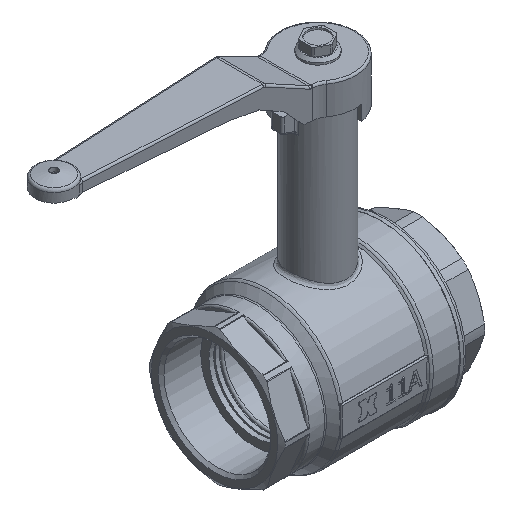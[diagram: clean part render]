
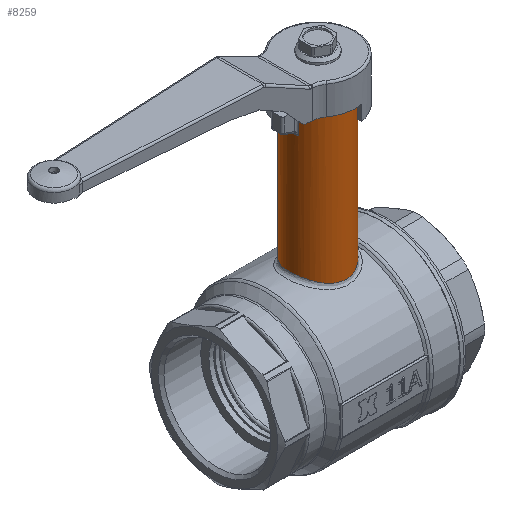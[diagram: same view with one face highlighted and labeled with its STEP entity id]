
A CAD part, isometric view. The second image highlights one B-rep face of the part: STEP entity #8259.
In plain terms, the highlighted cylindrical face has radius 15 mm (diameter 30 mm), a full revolution.
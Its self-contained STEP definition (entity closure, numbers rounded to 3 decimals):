
#255=ELLIPSE('',#8824,16.091,15.);
#301=B_SPLINE_CURVE_WITH_KNOTS('',3,(#12197,#12198,#12199,#12200,#12201,
#12202,#12203,#12204,#12205,#12206,#12207,#12208,#12209,#12210,#12211,#12212,
#12213,#12214),.UNSPECIFIED.,.T.,.F.,(4,1,1,1,1,1,1,1,1,1,1,1,1,1,1,4),
(0.,0.653,1.305,1.958,2.61,
3.263,3.915,4.35,4.785,5.22,
6.09,6.525,7.178,7.83,8.483,
9.136),.UNSPECIFIED.);
#456=LINE('',#12179,#1054);
#458=LINE('',#12194,#1056);
#1054=VECTOR('',#9752,11.707);
#1056=VECTOR('',#9758,11.707);
#1970=CYLINDRICAL_SURFACE('',#8823,15.);
#2112=FACE_BOUND('',#2819,.T.);
#2272=FACE_OUTER_BOUND('',#2818,.T.);
#2818=EDGE_LOOP('',(#5863,#5864,#5865,#5866));
#2819=EDGE_LOOP('',(#5867));
#3502=CIRCLE('',#8815,15.);
#3841=VERTEX_POINT('',#12127);
#3842=VERTEX_POINT('',#12129);
#3848=VERTEX_POINT('',#12178);
#3851=VERTEX_POINT('',#12193);
#3852=VERTEX_POINT('',#12196);
#4651=EDGE_CURVE('',#3842,#3841,#3502,.T.);
#4658=EDGE_CURVE('',#3842,#3848,#456,.T.);
#4662=EDGE_CURVE('',#3851,#3841,#458,.T.);
#4663=EDGE_CURVE('',#3848,#3851,#255,.T.);
#4664=EDGE_CURVE('',#3852,#3852,#301,.T.);
#5863=ORIENTED_EDGE('',*,*,#4651,.T.);
#5864=ORIENTED_EDGE('',*,*,#4662,.F.);
#5865=ORIENTED_EDGE('',*,*,#4663,.F.);
#5866=ORIENTED_EDGE('',*,*,#4658,.F.);
#5867=ORIENTED_EDGE('',*,*,#4664,.F.);
#8259=ADVANCED_FACE('',(#2272,#2112),#1970,.T.);
#8815=AXIS2_PLACEMENT_3D('',#12130,#9736,#9737);
#8823=AXIS2_PLACEMENT_3D('',#12192,#9756,#9757);
#8824=AXIS2_PLACEMENT_3D('',#12195,#9759,#9760);
#9736=DIRECTION('center_axis',(0.,0.,-1.));
#9737=DIRECTION('ref_axis',(-1.,0.,0.));
#9752=DIRECTION('',(0.,0.,-1.));
#9756=DIRECTION('center_axis',(0.,0.,1.));
#9757=DIRECTION('ref_axis',(-1.,0.,0.));
#9758=DIRECTION('',(0.,0.,1.));
#9759=DIRECTION('center_axis',(0.362,0.,0.932));
#9760=DIRECTION('ref_axis',(-0.932,0.,0.362));
#12127=CARTESIAN_POINT('',(-14.461,-3.984,118.25));
#12129=CARTESIAN_POINT('',(-14.461,3.984,118.25));
#12130=CARTESIAN_POINT('Origin',(0.,0.,118.25));
#12178=CARTESIAN_POINT('',(-14.461,3.984,106.543));
#12179=CARTESIAN_POINT('',(-14.461,3.984,0.));
#12192=CARTESIAN_POINT('Origin',(0.,0.,0.));
#12193=CARTESIAN_POINT('',(-14.461,-3.984,106.543));
#12194=CARTESIAN_POINT('',(-14.461,-3.984,0.));
#12195=CARTESIAN_POINT('Origin',(0.,0.,100.928));
#12196=CARTESIAN_POINT('',(0.,-15.,38.952));
#12197=CARTESIAN_POINT('Ctrl Pts',(-0.001,-15.003,
38.949));
#12198=CARTESIAN_POINT('Ctrl Pts',(-2.258,-15.003,
38.949));
#12199=CARTESIAN_POINT('Ctrl Pts',(-6.78,-13.942,
39.502));
#12200=CARTESIAN_POINT('Ctrl Pts',(-12.098,-9.697,
41.217));
#12201=CARTESIAN_POINT('Ctrl Pts',(-15.127,-3.483,
42.553));
#12202=CARTESIAN_POINT('Ctrl Pts',(-15.122,3.5,42.553));
#12203=CARTESIAN_POINT('Ctrl Pts',(-12.094,9.699,41.212));
#12204=CARTESIAN_POINT('Ctrl Pts',(-7.365,13.473,39.695));
#12205=CARTESIAN_POINT('Ctrl Pts',(-2.278,15.06,38.924));
#12206=CARTESIAN_POINT('Ctrl Pts',(2.295,15.054,38.925));
#12207=CARTESIAN_POINT('Ctrl Pts',(8.101,13.248,39.811));
#12208=CARTESIAN_POINT('Ctrl Pts',(12.611,9.048,41.446));
#12209=CARTESIAN_POINT('Ctrl Pts',(15.123,2.709,42.552));
#12210=CARTESIAN_POINT('Ctrl Pts',(15.119,-3.511,42.551));
#12211=CARTESIAN_POINT('Ctrl Pts',(12.099,-9.686,41.217));
#12212=CARTESIAN_POINT('Ctrl Pts',(6.784,-13.946,39.502));
#12213=CARTESIAN_POINT('Ctrl Pts',(2.255,-15.002,38.949));
#12214=CARTESIAN_POINT('Ctrl Pts',(-0.001,-15.003,
38.949));
